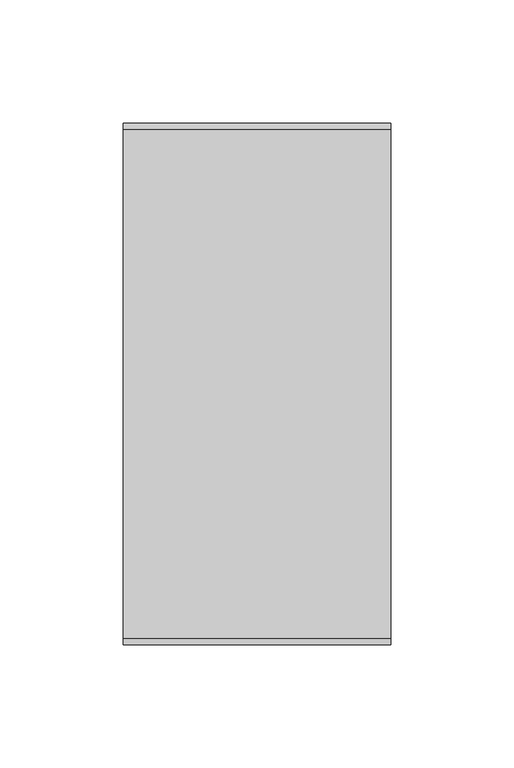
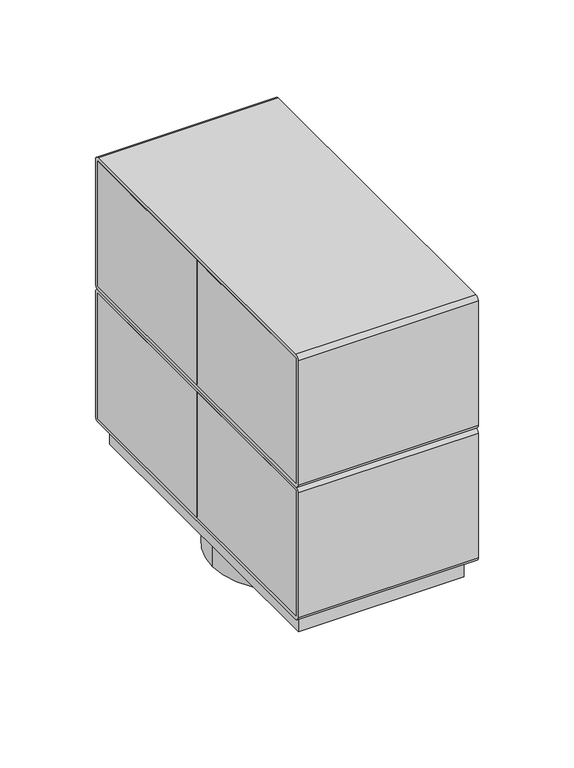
"""IFC4 building model written with IfcOpenShell, lengths in millimetres: proxy geometry, Electrical_Installation_Hager_VE-EE_Pedestal-box-8 : GB pedestal box 8 inst. fields iron gray."""

from ifc_helpers import new_model, si_unit, point, frame, frame_2d, origin, origin_with_axes, origin_2d, place, context, project, spatial, polyline, circle_curve, trimmed, segment, composite_curve, outline, extrude, source, transform, mapped, element, save


def electrical_fixtures_8552437b(model_context):
    return source(origin(), model_context, "Body", "SweptSolid", [
        extrude(outline(polyline([(1.25, -0.764292), (1.25, 0.764292), (48.9, 0.764292), (48.9, -0.764292), (1.25, -0.764292)])), frame((0.0, 0.0, 99.3), z_axis=(0.0, 0.0, 1.0), x_axis=(1.0, 0.0, 0.0)), (0.0, 0.0, 1.0), 79.9),
        extrude(outline(polyline([(-1.25, 0.764292), (-1.25, -0.764292), (-48.9, -0.764292), (-48.9, 0.764292), (-1.25, 0.764292)])), frame((0.0, 0.0, 99.3), z_axis=(0.0, 0.0, 1.0), x_axis=(1.0, 0.0, 0.0)), (0.0, 0.0, 1.0), 79.9),
        extrude(outline(polyline([(-54.4, 0.0), (-54.4, 103.7), (-48.9, 103.7), (-48.9, 0.0), (-54.4, 0.0)])), frame((0.0, 0.0, 99.3), z_axis=(0.0, 0.0, 1.0), x_axis=(1.0, 0.0, 0.0)), (0.0, 0.0, 1.0), 79.9),
        extrude(outline(polyline([(-54.4, -103.7), (-54.4, 0.0), (-48.9, 0.0), (-48.9, -103.7), (-54.4, -103.7)])), frame((0.0, 0.0, 99.3), z_axis=(0.0, 0.0, 1.0), x_axis=(1.0, 0.0, 0.0)), (0.0, 0.0, 1.0), 79.9),
        extrude(outline(polyline([(54.4, 103.7), (54.4, 0.0), (48.9, 0.0), (48.9, 103.7), (54.4, 103.7)])), frame((0.0, 0.0, 99.3), z_axis=(0.0, 0.0, 1.0), x_axis=(1.0, 0.0, 0.0)), (0.0, 0.0, 1.0), 79.9),
        extrude(outline(composite_curve([segment(polyline([(-103.5, 181.5), (103.5, 181.5)]), True, "CONTINUOUS"), segment(trimmed(circle_curve(frame_2d((103.5, 179.0)), 2.5), [point((103.5, 181.5))], [point((106.0, 179.0))], False, "CARTESIAN"), True, "CONTINUOUS"), segment(polyline([(106.0, 179.0), (106.0, 99.5)]), True, "CONTINUOUS"), segment(trimmed(circle_curve(frame_2d((103.5, 99.5)), 2.5), [point((106.0, 99.5))], [point((103.5, 97.0))], False, "CARTESIAN"), True, "CONTINUOUS"), segment(polyline([(103.5, 97.0), (-103.5, 97.0)]), True, "CONTINUOUS"), segment(trimmed(circle_curve(frame_2d((-103.5, 99.5)), 2.5), [point((-103.5, 97.0))], [point((-106.0, 99.5))], False, "CARTESIAN"), True, "CONTINUOUS"), segment(polyline([(-106.0, 99.5), (-106.0, 179.0)]), True, "CONTINUOUS"), segment(trimmed(circle_curve(frame_2d((-103.5, 179.0)), 2.5), [point((-106.0, 179.0))], [point((-103.5, 181.5))], False, "CARTESIAN"), True, "CONTINUOUS")], self_intersect=False), holes=[polyline([(-103.7, 179.2), (-103.7, 99.3), (103.7, 99.3), (103.7, 179.2), (-103.7, 179.2)])]), frame((-54.4, 0.0, 0.0), z_axis=(1.0, 0.0, 0.0), x_axis=(0.0, 1.0, 0.0)), (0.0, 0.0, 1.0), 108.8),
        extrude(outline(polyline([(0.0, 179.2), (0.0, 99.3), (-103.7, 99.3), (-103.7, 179.2), (0.0, 179.2)]), holes=[composite_curve([segment(trimmed(circle_curve(frame_2d((-51.85, 139.25)), 25.0), [point((-76.85, 139.25))], [point((-26.85, 139.25))], True, "CARTESIAN"), True, "CONTINUOUS"), segment(trimmed(circle_curve(frame_2d((-51.85, 139.25)), 25.0), [point((-26.85, 139.25))], [point((-76.85, 139.25))], True, "CARTESIAN"), True, "CONTINUOUS")], self_intersect=False)]), frame((48.9, 0.0, 0.0), z_axis=(1.0, 0.0, 0.0), x_axis=(0.0, 1.0, 0.0)), (0.0, 0.0, 1.0), 5.5),
        extrude(outline(polyline([(1.25, 103.7), (1.25, -103.7), (-1.25, -103.7), (-1.25, 103.7), (1.25, 103.7)])), frame((0.0, 0.0, 99.3), z_axis=(0.0, 0.0, 1.0), x_axis=(1.0, 0.0, 0.0)), (0.0, 0.0, 1.0), 79.9),
        extrude(outline(polyline([(1.25, -0.764292), (1.25, 0.764292), (48.9, 0.764292), (48.9, -0.764292), (1.25, -0.764292)])), frame((0.0, 0.0, 14.8), z_axis=(0.0, 0.0, 1.0), x_axis=(1.0, 0.0, 0.0)), (0.0, 0.0, 1.0), 79.9),
        extrude(outline(polyline([(-1.25, 0.764292), (-1.25, -0.764292), (-48.9, -0.764292), (-48.9, 0.764292), (-1.25, 0.764292)])), frame((0.0, 0.0, 14.8), z_axis=(0.0, 0.0, 1.0), x_axis=(1.0, 0.0, 0.0)), (0.0, 0.0, 1.0), 79.9),
        extrude(outline(polyline([(-54.4, 0.0), (-54.4, 103.7), (-48.9, 103.7), (-48.9, 0.0), (-54.4, 0.0)])), frame((0.0, 0.0, 14.8), z_axis=(0.0, 0.0, 1.0), x_axis=(1.0, 0.0, 0.0)), (0.0, 0.0, 1.0), 79.9),
        extrude(outline(polyline([(-54.4, -103.7), (-54.4, 0.0), (-48.9, 0.0), (-48.9, -103.7), (-54.4, -103.7)])), frame((0.0, 0.0, 14.8), z_axis=(0.0, 0.0, 1.0), x_axis=(1.0, 0.0, 0.0)), (0.0, 0.0, 1.0), 79.9),
        extrude(outline(polyline([(54.4, 103.7), (54.4, 0.0), (48.9, 0.0), (48.9, 103.7), (54.4, 103.7)])), frame((0.0, 0.0, 14.8), z_axis=(0.0, 0.0, 1.0), x_axis=(1.0, 0.0, 0.0)), (0.0, 0.0, 1.0), 79.9),
        extrude(outline(composite_curve([segment(polyline([(-103.5, 97.0), (103.5, 97.0)]), True, "CONTINUOUS"), segment(trimmed(circle_curve(frame_2d((103.5, 94.5)), 2.5), [point((103.5, 97.0))], [point((106.0, 94.5))], False, "CARTESIAN"), True, "CONTINUOUS"), segment(polyline([(106.0, 94.5), (106.0, 15.0)]), True, "CONTINUOUS"), segment(trimmed(circle_curve(frame_2d((103.5, 15.0)), 2.5), [point((106.0, 15.0))], [point((103.5, 12.5))], False, "CARTESIAN"), True, "CONTINUOUS"), segment(polyline([(103.5, 12.5), (-103.5, 12.5)]), True, "CONTINUOUS"), segment(trimmed(circle_curve(frame_2d((-103.5, 15.0)), 2.5), [point((-103.5, 12.5))], [point((-106.0, 15.0))], False, "CARTESIAN"), True, "CONTINUOUS"), segment(polyline([(-106.0, 15.0), (-106.0, 94.5)]), True, "CONTINUOUS"), segment(trimmed(circle_curve(frame_2d((-103.5, 94.5)), 2.5), [point((-106.0, 94.5))], [point((-103.5, 97.0))], False, "CARTESIAN"), True, "CONTINUOUS")], self_intersect=False), holes=[polyline([(-103.7, 94.7), (-103.7, 14.8), (103.7, 14.8), (103.7, 94.7), (-103.7, 94.7)])]), frame((-54.4, 0.0, 0.0), z_axis=(1.0, 0.0, 0.0), x_axis=(0.0, 1.0, 0.0)), (0.0, 0.0, 1.0), 108.8),
        extrude(outline(polyline([(0.0, 94.7), (0.0, 14.8), (-103.7, 14.8), (-103.7, 94.7), (0.0, 94.7)]), holes=[composite_curve([segment(trimmed(circle_curve(frame_2d((-51.85, 54.75)), 25.0), [point((-76.85, 54.75))], [point((-26.85, 54.75))], True, "CARTESIAN"), True, "CONTINUOUS"), segment(trimmed(circle_curve(frame_2d((-51.85, 54.75)), 25.0), [point((-26.85, 54.75))], [point((-76.85, 54.75))], True, "CARTESIAN"), True, "CONTINUOUS")], self_intersect=False)]), frame((48.9, 0.0, 0.0), z_axis=(1.0, 0.0, 0.0), x_axis=(0.0, 1.0, 0.0)), (0.0, 0.0, 1.0), 5.5),
        extrude(outline(composite_curve([segment(trimmed(circle_curve(origin_2d(), 45.0), [point((-45.0, 0.0))], [point((45.0, 0.0))], False, "CARTESIAN"), True, "CONTINUOUS"), segment(trimmed(circle_curve(origin_2d(), 45.0), [point((45.0, 0.0))], [point((-45.0, 0.0))], False, "CARTESIAN"), True, "CONTINUOUS")], self_intersect=False), holes=[composite_curve([segment(trimmed(circle_curve(origin_2d(), 27.5), [point((-27.5, 0.0))], [point((27.5, 0.0))], True, "CARTESIAN"), True, "CONTINUOUS"), segment(trimmed(circle_curve(origin_2d(), 27.5), [point((27.5, 0.0))], [point((-27.5, 0.0))], True, "CARTESIAN"), True, "CONTINUOUS")], self_intersect=False)]), frame((0.0, 0.0, -20.0), z_axis=(0.0, 0.0, 1.0), x_axis=(1.0, 0.0, 0.0)), (0.0, 0.0, 1.0), 20.0),
        extrude(outline(polyline([(1.25, 103.7), (1.25, -103.7), (-1.25, -103.7), (-1.25, 103.7), (1.25, 103.7)])), frame((0.0, 0.0, 14.8), z_axis=(0.0, 0.0, 1.0), x_axis=(1.0, 0.0, 0.0)), (0.0, 0.0, 1.0), 79.9),
        extrude(outline(polyline([(50.0, -98.7), (-50.0, -98.7), (-50.0, 98.7), (50.0, 98.7), (50.0, -98.7)]), holes=[composite_curve([segment(trimmed(circle_curve(frame_2d((-28.5912964, 0.7333267)), 5.0), [point((-24.4955362, 3.6012089))], [point((-25.7234143, -3.3624335))], False, "CARTESIAN"), True, "CONTINUOUS"), segment(polyline([(-25.7234143, -3.3624335), (-34.1678222, -9.2752716)]), True, "CONTINUOUS"), segment(trimmed(circle_curve(frame_2d((-31.29994, -13.3710318)), 5.0), [point((-34.1678222, -9.2752716))], [point((-35.8979613, -15.335262))], True, "CARTESIAN"), True, "CONTINUOUS"), segment(trimmed(circle_curve(origin_2d(), 39.0363149), [point((-35.8979613, -15.335262))], [point((-26.6882584, -28.4880808))], True, "CARTESIAN"), True, "CONTINUOUS"), segment(trimmed(circle_curve(frame_2d((-23.2698699, -24.8391604)), 5.0), [point((-26.6882584, -28.4880808))], [point((-20.4019877, -28.9349206))], True, "CARTESIAN"), True, "CONTINUOUS"), segment(polyline([(-20.4019877, -28.9349206), (-11.9575798, -23.0220826)]), True, "CONTINUOUS"), segment(trimmed(circle_curve(frame_2d((-9.0896976, -27.1178428)), 5.0), [point((-11.9575798, -23.0220826))], [point((-4.9939374, -24.2499606))], False, "CARTESIAN"), True, "CONTINUOUS"), segment(polyline([(-4.9939374, -24.2499606), (3.2975997, -36.0915028)]), True, "CONTINUOUS"), segment(trimmed(circle_curve(frame_2d((7.3933599, -33.2236206)), 5.0), [point((3.2975997, -36.0915028))], [point((8.4794587, -38.1042342))], True, "CARTESIAN"), True, "CONTINUOUS"), segment(trimmed(circle_curve(origin_2d(), 39.0363149), [point((8.4794587, -38.1042342))], [point((32.906122, -21.0005004))], True, "CARTESIAN"), True, "CONTINUOUS"), segment(trimmed(circle_curve(frame_2d((28.6913131, -18.3106332)), 5.0), [point((32.906122, -21.0005004))], [point((32.7870733, -15.442751))], True, "CARTESIAN"), True, "CONTINUOUS"), segment(polyline([(32.7870733, -15.442751), (24.4955362, -3.6012089)]), True, "CONTINUOUS"), segment(trimmed(circle_curve(frame_2d((28.5912964, -0.7333267)), 5.0), [point((24.4955362, -3.6012089))], [point((25.7234143, 3.3624335))], False, "CARTESIAN"), True, "CONTINUOUS"), segment(polyline([(25.7234143, 3.3624335), (34.1678222, 9.2752716)]), True, "CONTINUOUS"), segment(trimmed(circle_curve(frame_2d((31.29994, 13.3710318)), 5.0), [point((34.1678222, 9.2752716))], [point((35.8979613, 15.335262))], True, "CARTESIAN"), True, "CONTINUOUS"), segment(trimmed(circle_curve(origin_2d(), 39.0363149), [point((35.8979613, 15.335262))], [point((26.6882584, 28.4880808))], True, "CARTESIAN"), True, "CONTINUOUS"), segment(trimmed(circle_curve(frame_2d((23.2698699, 24.8391604)), 5.0), [point((26.6882584, 28.4880808))], [point((20.4019877, 28.9349206))], True, "CARTESIAN"), True, "CONTINUOUS"), segment(polyline([(20.4019877, 28.9349206), (11.9575798, 23.0220826)]), True, "CONTINUOUS"), segment(trimmed(circle_curve(frame_2d((9.0896976, 27.1178428)), 5.0), [point((11.9575798, 23.0220826))], [point((4.9939374, 24.2499606))], False, "CARTESIAN"), True, "CONTINUOUS"), segment(polyline([(4.9939374, 24.2499606), (-3.2975997, 36.0915028)]), True, "CONTINUOUS"), segment(trimmed(circle_curve(frame_2d((-7.3933599, 33.2236206)), 5.0), [point((-3.2975997, 36.0915028))], [point((-8.4794587, 38.1042342))], True, "CARTESIAN"), True, "CONTINUOUS"), segment(trimmed(circle_curve(origin_2d(), 39.0363149), [point((-8.4794587, 38.1042342))], [point((-32.906122, 21.0005004))], True, "CARTESIAN"), True, "CONTINUOUS"), segment(trimmed(circle_curve(frame_2d((-28.6913131, 18.3106332)), 5.0), [point((-32.906122, 21.0005004))], [point((-32.7870733, 15.442751))], True, "CARTESIAN"), True, "CONTINUOUS"), segment(polyline([(-32.7870733, 15.442751), (-24.4955362, 3.6012089)]), True, "CONTINUOUS")], self_intersect=False)]), origin_with_axes(), (0.0, 0.0, 1.0), 12.5),
    ])


if __name__ == "__main__":
    model = new_model("IFC4")
    model_context = context("Model", 3, world=origin())
    ifc_project = project(units=[si_unit("LENGTHUNIT", "METRE", prefix="MILLI")], contexts=[model_context])
    site = spatial("IfcSite", under=ifc_project)
    building = spatial("IfcBuilding", under=site)
    placement = place(None, origin())
    electrical_fixtures_shape = electrical_fixtures_8552437b(model_context)
    element("IfcBuildingElementProxy", 1, Name="Electrical_Installation_Hager_VE-EE_Pedestal-box-8 : GB pedestal box 8 inst. fields iron gray", ObjectType="Electrical_Installation_Hager_VE-EE_Pedestal-box-8 : GB pedestal box 8 inst. fields iron gray", at=placement, inside=building, context=model_context, shape_type="MappedRepresentation", body=[
        mapped(electrical_fixtures_shape, transform((0.0, 0.0, 0.0), x_axis=(1.0, 0.0, 0.0), y_axis=(0.0, 1.0, 0.0), z_axis=(0.0, 0.0, 1.0))),
    ])
    save(model, "model.ifc")
